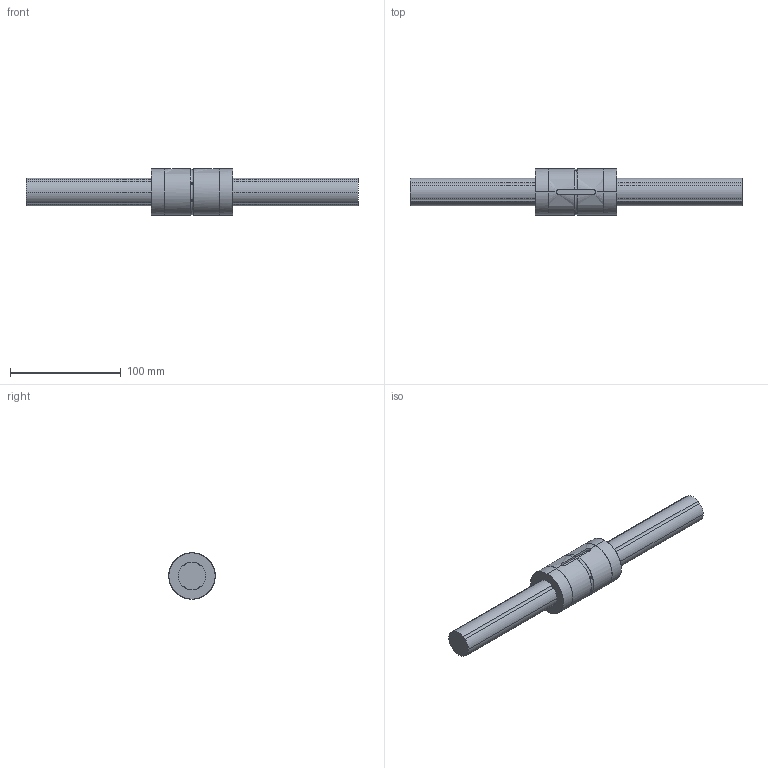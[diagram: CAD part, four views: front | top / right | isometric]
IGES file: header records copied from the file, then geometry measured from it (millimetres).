
Global section: file name: No Iges File Name specified; native system: AutoDesk Inventor R11.0; preprocessor: AutoDesk Inventor Iges Exporter R11.0; author: No Author specified; organization: No Organization specified; date: 20150223.132821; units: millimetre
Bounding box: 300 x 42 x 42 mm (x, y, z)
Surface area: 42855.8 mm2 (no closed solid volume)
Topology: 0 solids, 0 shells, 51 faces, 384 edges, 384 vertices
Faces by surface type: bspline 51
